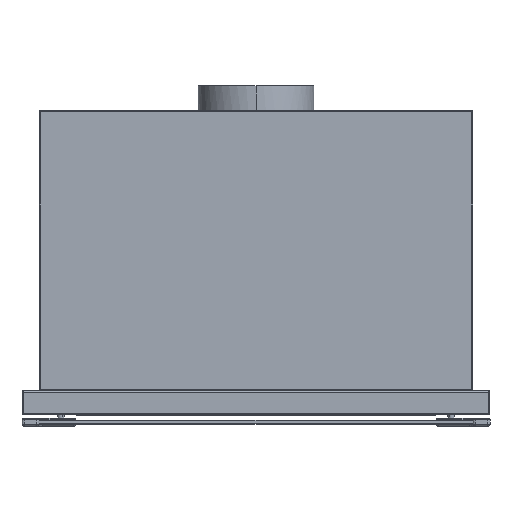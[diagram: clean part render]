
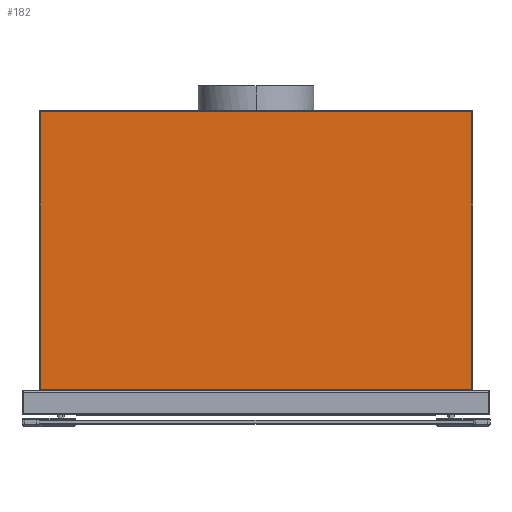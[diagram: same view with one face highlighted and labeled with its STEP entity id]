
A CAD part, front view. The second image highlights one B-rep face of the part: STEP entity #182.
In plain terms, the highlighted planar face has unit normal (0, -1, 0).
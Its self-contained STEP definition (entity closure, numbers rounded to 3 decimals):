
#182=ADVANCED_FACE('',(#447),#3788,.T.);
#447=FACE_OUTER_BOUND('',#712,.T.);
#712=EDGE_LOOP('',(#1082,#1083,#1084,#1085));
#1082=ORIENTED_EDGE('',*,*,#2189,.F.);
#1083=ORIENTED_EDGE('',*,*,#2174,.F.);
#1084=ORIENTED_EDGE('',*,*,#2193,.F.);
#1085=ORIENTED_EDGE('',*,*,#2192,.F.);
#2174=EDGE_CURVE('',#3318,#3319,#2944,.T.);
#2189=EDGE_CURVE('',#3319,#3329,#2953,.T.);
#2192=EDGE_CURVE('',#3329,#3331,#2955,.T.);
#2193=EDGE_CURVE('',#3331,#3318,#2956,.T.);
#2944=B_SPLINE_CURVE_WITH_KNOTS('',1,(#5389,#5390),.UNSPECIFIED.,.F.,.F.,
(2,2),(0.,354.),.UNSPECIFIED.);
#2953=B_SPLINE_CURVE_WITH_KNOTS('',1,(#5431,#5432),.UNSPECIFIED.,.F.,.F.,
(2,2),(-549.,0.),.UNSPECIFIED.);
#2955=B_SPLINE_CURVE_WITH_KNOTS('',1,(#5438,#5439),.UNSPECIFIED.,.F.,.F.,
(2,2),(-354.,0.),.UNSPECIFIED.);
#2956=B_SPLINE_CURVE_WITH_KNOTS('',1,(#5440,#5441),.UNSPECIFIED.,.F.,.F.,
(2,2),(0.,549.),.UNSPECIFIED.);
#3318=VERTEX_POINT('',#5355);
#3319=VERTEX_POINT('',#5356);
#3329=VERTEX_POINT('',#5366);
#3331=VERTEX_POINT('',#5368);
#3788=PLANE('',#3922);
#3922=AXIS2_PLACEMENT_3D('',#5103,#4039,$);
#4039=DIRECTION('',(0.,-1.,0.));
#5103=CARTESIAN_POINT('',(329.46,-192.,-33.96));
#5355=CARTESIAN_POINT('',(-274.5,-192.,1.5));
#5356=CARTESIAN_POINT('',(-274.5,-192.,355.5));
#5366=CARTESIAN_POINT('',(274.5,-192.,355.5));
#5368=CARTESIAN_POINT('',(274.5,-192.,1.5));
#5389=CARTESIAN_POINT('',(-274.5,-192.,1.5));
#5390=CARTESIAN_POINT('',(-274.5,-192.,355.5));
#5431=CARTESIAN_POINT('',(-274.5,-192.,355.5));
#5432=CARTESIAN_POINT('',(274.5,-192.,355.5));
#5438=CARTESIAN_POINT('',(274.5,-192.,355.5));
#5439=CARTESIAN_POINT('',(274.5,-192.,1.5));
#5440=CARTESIAN_POINT('',(274.5,-192.,1.5));
#5441=CARTESIAN_POINT('',(-274.5,-192.,1.5));
